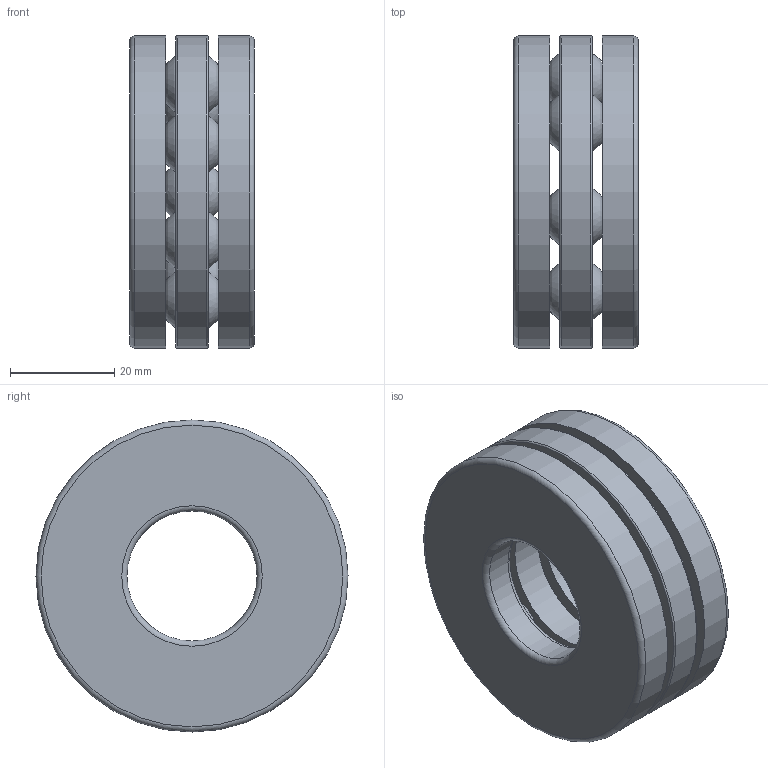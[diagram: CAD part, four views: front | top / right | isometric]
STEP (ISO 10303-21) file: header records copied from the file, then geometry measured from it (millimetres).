
FILE_DESCRIPTION( ( 'STEP AP203' ), ' ' );
FILE_NAME( 'p:/temp/worker_2983/4580_5284/app_40_02018020413105915746226192d056f_000000_00_00_000000/format_0/51405.stp', '2018-02-04T12:11:00', ( '' ), ( '' ), ' ', 'PARTsolutions', ' ' );
FILE_SCHEMA( ( 'CONFIG_CONTROL_DESIGN' ) );
Length unit declared in the file: millimetre
Products named in the file (5): 51405; _51405_PART1; _51405_PART2; _51405_PART3; _51405_PART4
Assembly tree (10 placements, depth 2):
  51405
    _51405_PART1
    _51405_PART2
    _51405_PART3
    _51405_PART4  x7
Bounding box: 24 x 60 x 60 mm (x, y, z)
Volume: 46176.8 mm3; surface area: 22450.9 mm2
Topology: 10 solids, 10 shells, 37 faces, 87 edges, 58 vertices
Faces by surface type: cylinder 13, torus 9, plane 8, sphere 7
Full cylindrical faces by diameter (mm): 12.5 x7, 25 x1, 27 x2, 60 x3
Entity records: 946 total; most frequent: DIRECTION 158, CARTESIAN_POINT 118, AXIS2_PLACEMENT_3D 79, EDGE_LOOP 74, ORIENTED_EDGE 74, FACE_OUTER_BOUND 52, VERTEX_POINT 39, EDGE_CURVE 37
